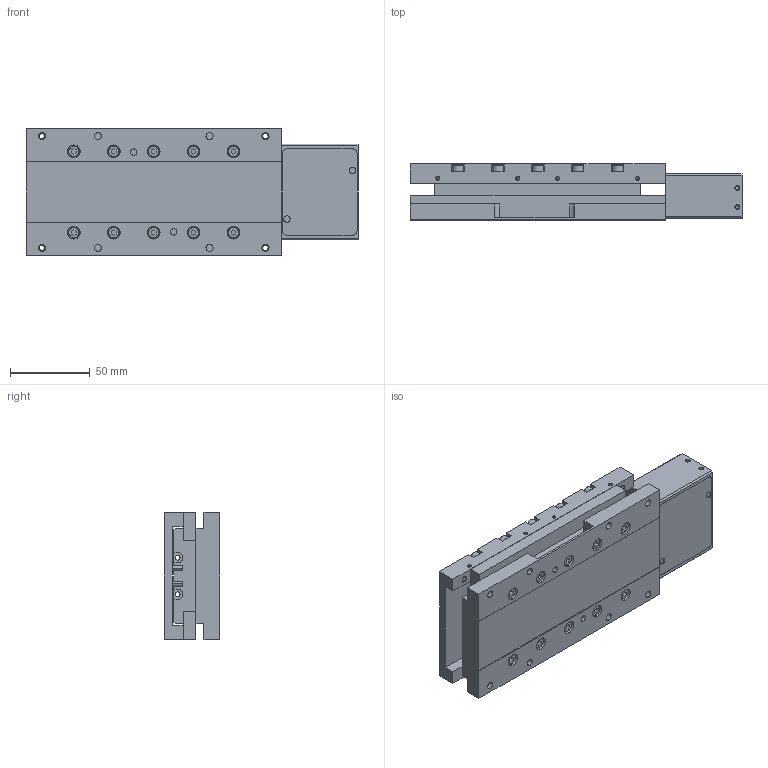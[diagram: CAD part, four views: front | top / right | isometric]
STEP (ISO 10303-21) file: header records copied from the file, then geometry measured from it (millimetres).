
FILE_DESCRIPTION((''),'2;1');
FILE_NAME('MX80S-100TVL_ASM','2003-05-23T',('FKrakosh'),(''),'PRO/ENGINEER BY PARAMETRIC TECHNOLOGY CORPORATION, 2002310','PRO/ENGINEER BY PARAMETRIC TECHNOLOGY CORPORATION, 2002310','');
FILE_SCHEMA(('CONFIG_CONTROL_DESIGN'));
Products named in the file (8): MX80S-100TVL-BASE; MX80S-BEARING-CR-100TVL; 11045410; MX80S-MOTORBLOCK; 11046111; M414S; M308S; MX80S-100TVL_ASM
Assembly tree (28 placements, depth 2):
  MX80S-100TVL_ASM
    MX80S-100TVL-BASE
    MX80S-BEARING-CR-100TVL  x2
    11045410
    MX80S-MOTORBLOCK
    11046111
    M414S  x20
    M308S  x2
Bounding box: 208 x 35 x 80 mm (x, y, z)
Volume: 352793.4 mm3; surface area: 118870.4 mm2
Topology: 28 solids, 61 shells, 851 faces, 2041 edges, 1319 vertices
Faces by surface type: cylinder 374, plane 359, cone 118
Entity records: 15757 total; most frequent: DIRECTION 2907, CARTESIAN_POINT 2799, ORIENTED_EDGE 2354, EDGE_CURVE 1243, AXIS2_PLACEMENT_3D 1149, VERTEX_POINT 831, EDGE_LOOP 668, CIRCLE 622
